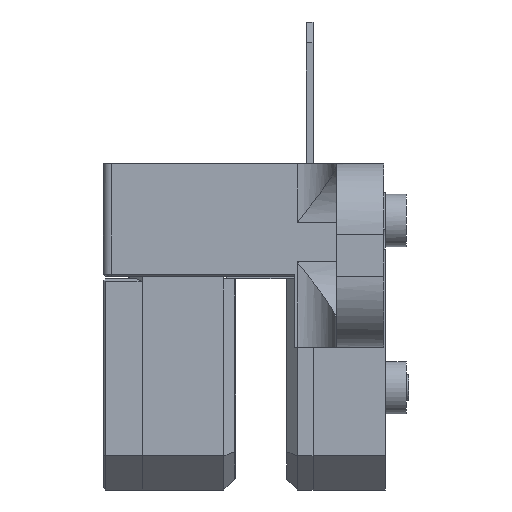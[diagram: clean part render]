
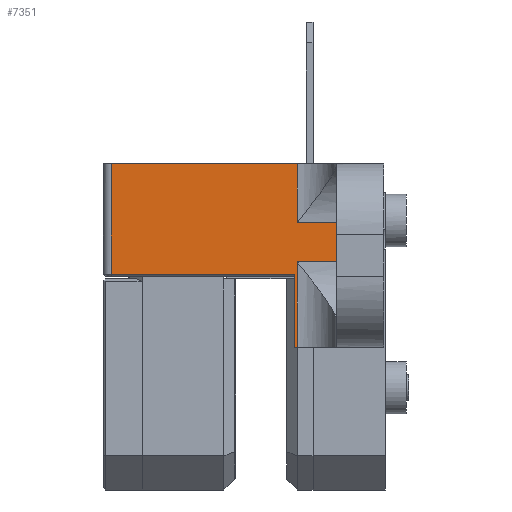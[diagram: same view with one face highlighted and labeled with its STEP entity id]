
A CAD part, left-side view. The second image highlights one B-rep face of the part: STEP entity #7351.
In plain terms, the highlighted planar face has unit normal (-1, 0, 0).
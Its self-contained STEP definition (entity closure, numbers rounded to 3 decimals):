
#5 = LINE ( 'NONE', #5165, #1243 ) ;
#30 = VECTOR ( 'NONE', #1583, 1000. ) ;
#301 = ORIENTED_EDGE ( 'NONE', *, *, #1548, .T. ) ;
#403 = CARTESIAN_POINT ( 'NONE',  ( -7.361, -2.047, -0.796 ) ) ;
#437 = ORIENTED_EDGE ( 'NONE', *, *, #16345, .T. ) ;
#458 = LINE ( 'NONE', #9454, #8170 ) ;
#463 = VECTOR ( 'NONE', #1055, 1000. ) ;
#507 = CARTESIAN_POINT ( 'NONE',  ( -7.361, -0.547, 22.454 ) ) ;
#809 = CARTESIAN_POINT ( 'NONE',  ( -7.361, -0.547, 26.204 ) ) ;
#1055 = DIRECTION ( 'NONE',  ( 0., -1., 0. ) ) ;
#1146 = LINE ( 'NONE', #3760, #463 ) ;
#1243 = VECTOR ( 'NONE', #5322, 1000. ) ;
#1342 = ORIENTED_EDGE ( 'NONE', *, *, #2048, .T. ) ;
#1351 = CARTESIAN_POINT ( 'NONE',  ( -7.361, 6.653, 21.984 ) ) ;
#1465 = CARTESIAN_POINT ( 'NONE',  ( -7.361, 6.653, -0.796 ) ) ;
#1511 = VERTEX_POINT ( 'NONE', #5101 ) ;
#1548 = EDGE_CURVE ( 'NONE', #13079, #7872, #1146, .T. ) ;
#1583 = DIRECTION ( 'NONE',  ( 0., 0., 1. ) ) ;
#1596 = ORIENTED_EDGE ( 'NONE', *, *, #13942, .F. ) ;
#1972 = CARTESIAN_POINT ( 'NONE',  ( -7.361, -0.547, 23.954 ) ) ;
#2048 = EDGE_CURVE ( 'NONE', #12700, #1511, #458, .T. ) ;
#2086 = EDGE_CURVE ( 'NONE', #13717, #13079, #4747, .T. ) ;
#2632 = VERTEX_POINT ( 'NONE', #809 ) ;
#2835 = DIRECTION ( 'NONE',  ( 0., 0., -1. ) ) ;
#3482 = EDGE_CURVE ( 'NONE', #16606, #10805, #15205, .T. ) ;
#3587 = CARTESIAN_POINT ( 'NONE',  ( -7.361, 6.553, -0.796 ) ) ;
#3598 = CARTESIAN_POINT ( 'NONE',  ( -7.361, -41.261, 19.204 ) ) ;
#3760 = CARTESIAN_POINT ( 'NONE',  ( -7.361, 7.239, 22.454 ) ) ;
#4588 = ORIENTED_EDGE ( 'NONE', *, *, #5716, .T. ) ;
#4747 = LINE ( 'NONE', #7237, #6527 ) ;
#4932 = DIRECTION ( 'NONE',  ( 0., 1., 0. ) ) ;
#5101 = CARTESIAN_POINT ( 'NONE',  ( -7.361, -0.447, 19.204 ) ) ;
#5165 = CARTESIAN_POINT ( 'NONE',  ( -7.361, -0.547, -0.796 ) ) ;
#5235 = LINE ( 'NONE', #14419, #16398 ) ;
#5322 = DIRECTION ( 'NONE',  ( 0., 0., 1. ) ) ;
#5562 = VECTOR ( 'NONE', #11939, 1000. ) ;
#5716 = EDGE_CURVE ( 'NONE', #11289, #15623, #5235, .T. ) ;
#5760 = EDGE_CURVE ( 'NONE', #15623, #2632, #5, .T. ) ;
#6006 = EDGE_CURVE ( 'NONE', #7872, #11289, #11997, .T. ) ;
#6527 = VECTOR ( 'NONE', #8675, 1000. ) ;
#7014 = EDGE_LOOP ( 'NONE', ( #9756, #1596, #10582, #437, #1342, #14933, #7889, #301, #9421, #4588 ) ) ;
#7237 = CARTESIAN_POINT ( 'NONE',  ( -7.361, -0.547, -0.796 ) ) ;
#7351 = ADVANCED_FACE ( 'NONE', ( #7827 ), #9352, .T. ) ;
#7414 = LINE ( 'NONE', #3598, #12354 ) ;
#7827 = FACE_OUTER_BOUND ( 'NONE', #7014, .T. ) ;
#7872 = VERTEX_POINT ( 'NONE', #14639 ) ;
#7889 = ORIENTED_EDGE ( 'NONE', *, *, #2086, .T. ) ;
#8077 = DIRECTION ( 'NONE',  ( 0., 0., 1. ) ) ;
#8170 = VECTOR ( 'NONE', #2835, 1000. ) ;
#8675 = DIRECTION ( 'NONE',  ( 0., 0., 1. ) ) ;
#8792 = CARTESIAN_POINT ( 'NONE',  ( -7.361, -2.047, 23.954 ) ) ;
#8909 = LINE ( 'NONE', #1351, #11374 ) ;
#9352 = PLANE ( 'NONE',  #11930 ) ;
#9421 = ORIENTED_EDGE ( 'NONE', *, *, #6006, .T. ) ;
#9454 = CARTESIAN_POINT ( 'NONE',  ( -7.361, -0.447, -0.796 ) ) ;
#9756 = ORIENTED_EDGE ( 'NONE', *, *, #5760, .T. ) ;
#10152 = CARTESIAN_POINT ( 'NONE',  ( -7.361, 6.553, 26.204 ) ) ;
#10582 = ORIENTED_EDGE ( 'NONE', *, *, #3482, .T. ) ;
#10781 = CARTESIAN_POINT ( 'NONE',  ( -7.361, -0.447, 21.984 ) ) ;
#10805 = VERTEX_POINT ( 'NONE', #16630 ) ;
#11289 = VERTEX_POINT ( 'NONE', #8792 ) ;
#11374 = VECTOR ( 'NONE', #14313, 1000. ) ;
#11549 = DIRECTION ( 'NONE',  ( 0., 0., -1. ) ) ;
#11930 = AXIS2_PLACEMENT_3D ( 'NONE', #1465, #14508, #8077 ) ;
#11939 = DIRECTION ( 'NONE',  ( 0., -1., 0. ) ) ;
#11997 = LINE ( 'NONE', #403, #30 ) ;
#12176 = EDGE_CURVE ( 'NONE', #13717, #1511, #7414, .T. ) ;
#12354 = VECTOR ( 'NONE', #4932, 1000. ) ;
#12700 = VERTEX_POINT ( 'NONE', #10781 ) ;
#12979 = DIRECTION ( 'NONE',  ( 0., 1., 0. ) ) ;
#13079 = VERTEX_POINT ( 'NONE', #507 ) ;
#13127 = CARTESIAN_POINT ( 'NONE',  ( -7.361, -41.261, 26.204 ) ) ;
#13717 = VERTEX_POINT ( 'NONE', #14783 ) ;
#13942 = EDGE_CURVE ( 'NONE', #16606, #2632, #15274, .T. ) ;
#14313 = DIRECTION ( 'NONE',  ( 0., -1., 0. ) ) ;
#14419 = CARTESIAN_POINT ( 'NONE',  ( -7.361, 7.239, 23.954 ) ) ;
#14508 = DIRECTION ( 'NONE',  ( -1., 0., 0. ) ) ;
#14639 = CARTESIAN_POINT ( 'NONE',  ( -7.361, -2.047, 22.454 ) ) ;
#14783 = CARTESIAN_POINT ( 'NONE',  ( -7.361, -0.547, 19.204 ) ) ;
#14933 = ORIENTED_EDGE ( 'NONE', *, *, #12176, .F. ) ;
#15205 = LINE ( 'NONE', #3587, #16329 ) ;
#15274 = LINE ( 'NONE', #13127, #5562 ) ;
#15623 = VERTEX_POINT ( 'NONE', #1972 ) ;
#16329 = VECTOR ( 'NONE', #11549, 1000. ) ;
#16345 = EDGE_CURVE ( 'NONE', #10805, #12700, #8909, .T. ) ;
#16398 = VECTOR ( 'NONE', #12979, 1000. ) ;
#16606 = VERTEX_POINT ( 'NONE', #10152 ) ;
#16630 = CARTESIAN_POINT ( 'NONE',  ( -7.361, 6.553, 21.984 ) ) ;
